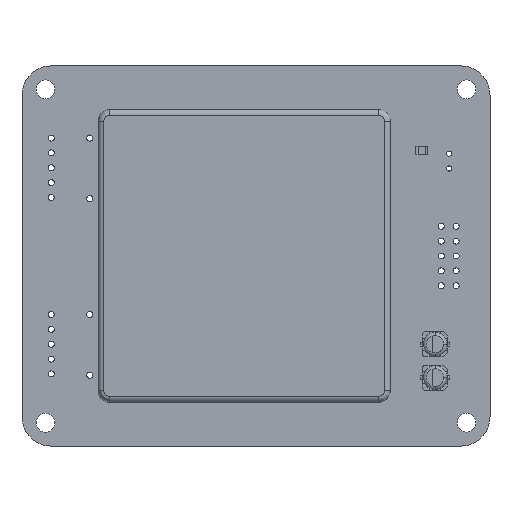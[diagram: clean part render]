
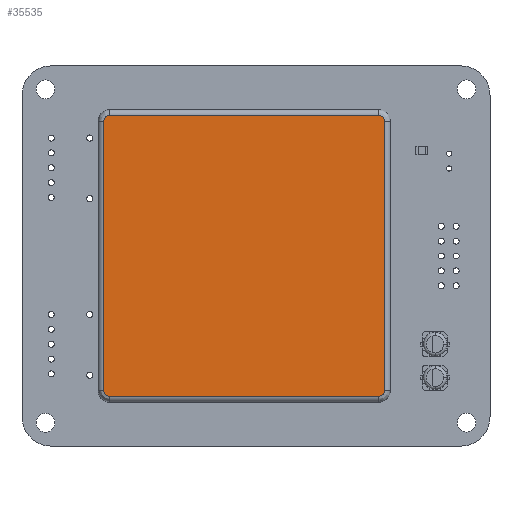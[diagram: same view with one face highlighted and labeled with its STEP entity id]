
A CAD part, top view. The second image highlights one B-rep face of the part: STEP entity #35535.
In plain terms, the highlighted planar face has unit normal (0, 0, 1) as drawn and (0, 1, 0) by its records, which use the part's own axes.
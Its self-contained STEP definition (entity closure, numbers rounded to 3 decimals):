
#35076=CARTESIAN_POINT('',(-23.,25.,23.));
#35077=DIRECTION('',(0.,1.,0.));
#35078=DIRECTION('',(-1.,0.,0.));
#35079=AXIS2_PLACEMENT_3D('',#35076,#35077,#35078);
#35081=DIRECTION('',(0.,0.,1.));
#35082=VECTOR('',#35081,46.);
#35083=CARTESIAN_POINT('',(-24.,25.,-23.));
#35084=LINE('',#35083,#35082);
#35085=CARTESIAN_POINT('',(-23.,25.,-23.));
#35086=DIRECTION('',(0.,1.,0.));
#35087=DIRECTION('',(0.,0.,-1.));
#35088=AXIS2_PLACEMENT_3D('',#35085,#35086,#35087);
#35090=DIRECTION('',(-1.,0.,0.));
#35091=VECTOR('',#35090,46.);
#35092=CARTESIAN_POINT('',(23.,25.,-24.));
#35093=LINE('',#35092,#35091);
#35094=CARTESIAN_POINT('',(23.,25.,-23.));
#35095=DIRECTION('',(0.,1.,0.));
#35096=DIRECTION('',(1.,0.,0.));
#35097=AXIS2_PLACEMENT_3D('',#35094,#35095,#35096);
#35099=DIRECTION('',(0.,0.,-1.));
#35100=VECTOR('',#35099,46.);
#35101=CARTESIAN_POINT('',(24.,25.,23.));
#35102=LINE('',#35101,#35100);
#35103=CARTESIAN_POINT('',(23.,25.,23.));
#35104=DIRECTION('',(0.,1.,0.));
#35105=DIRECTION('',(0.,0.,1.));
#35106=AXIS2_PLACEMENT_3D('',#35103,#35104,#35105);
#35108=DIRECTION('',(1.,0.,0.));
#35109=VECTOR('',#35108,46.);
#35110=CARTESIAN_POINT('',(-23.,25.,24.));
#35111=LINE('',#35110,#35109);
#35235=CARTESIAN_POINT('',(-24.,25.,23.));
#35236=CARTESIAN_POINT('',(-23.,25.,24.));
#35237=VERTEX_POINT('',#35235);
#35238=VERTEX_POINT('',#35236);
#35243=CARTESIAN_POINT('',(23.,25.,24.));
#35244=VERTEX_POINT('',#35243);
#35247=CARTESIAN_POINT('',(24.,25.,23.));
#35248=VERTEX_POINT('',#35247);
#35251=CARTESIAN_POINT('',(24.,25.,-23.));
#35252=VERTEX_POINT('',#35251);
#35255=CARTESIAN_POINT('',(23.,25.,-24.));
#35256=VERTEX_POINT('',#35255);
#35259=CARTESIAN_POINT('',(-23.,25.,-24.));
#35260=VERTEX_POINT('',#35259);
#35263=CARTESIAN_POINT('',(-24.,25.,-23.));
#35264=VERTEX_POINT('',#35263);
#35513=CARTESIAN_POINT('',(0.,25.,0.));
#35514=DIRECTION('',(0.,1.,0.));
#35515=DIRECTION('',(1.,0.,0.));
#35516=AXIS2_PLACEMENT_3D('',#35513,#35514,#35515);
#35517=PLANE('',#35516);
#35519=ORIENTED_EDGE('',*,*,#35518,.F.);
#35520=ORIENTED_EDGE('',*,*,#35503,.F.);
#35522=ORIENTED_EDGE('',*,*,#35521,.F.);
#35524=ORIENTED_EDGE('',*,*,#35523,.F.);
#35526=ORIENTED_EDGE('',*,*,#35525,.F.);
#35528=ORIENTED_EDGE('',*,*,#35527,.F.);
#35530=ORIENTED_EDGE('',*,*,#35529,.F.);
#35532=ORIENTED_EDGE('',*,*,#35531,.F.);
#35533=EDGE_LOOP('',(#35519,#35520,#35522,#35524,#35526,#35528,#35530,#35532));
#35534=FACE_OUTER_BOUND('',#35533,.F.);
#35535=ADVANCED_FACE('',(#35534),#35517,.T.);
#35080=CIRCLE('',#35079,1.);
#35089=CIRCLE('',#35088,1.);
#35098=CIRCLE('',#35097,1.);
#35107=CIRCLE('',#35106,1.);
#35503=EDGE_CURVE('',#35264,#35237,#35084,.T.);
#35518=EDGE_CURVE('',#35237,#35238,#35080,.T.);
#35521=EDGE_CURVE('',#35260,#35264,#35089,.T.);
#35523=EDGE_CURVE('',#35256,#35260,#35093,.T.);
#35525=EDGE_CURVE('',#35252,#35256,#35098,.T.);
#35527=EDGE_CURVE('',#35248,#35252,#35102,.T.);
#35529=EDGE_CURVE('',#35244,#35248,#35107,.T.);
#35531=EDGE_CURVE('',#35238,#35244,#35111,.T.);
